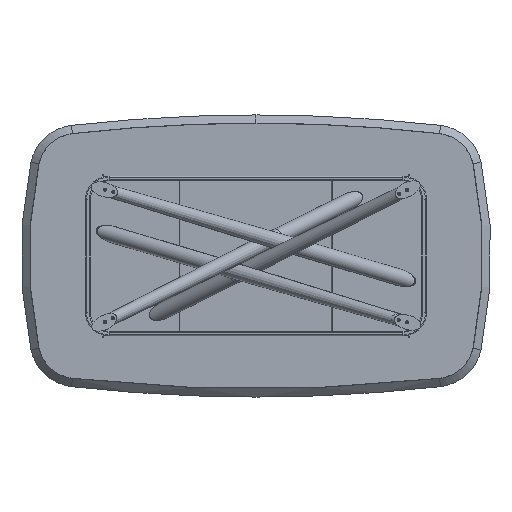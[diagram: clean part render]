
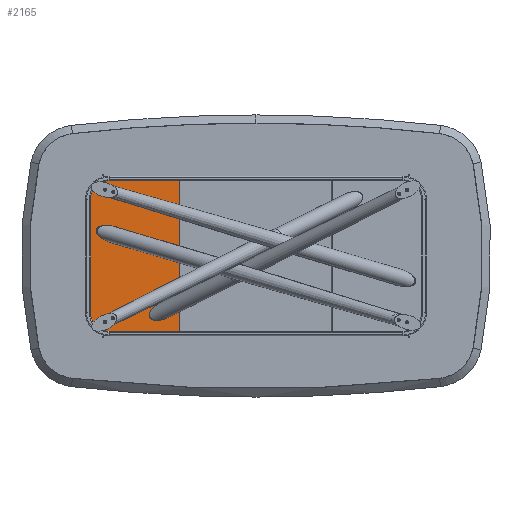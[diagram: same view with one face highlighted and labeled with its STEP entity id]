
A CAD part, front view. The second image highlights one B-rep face of the part: STEP entity #2165.
In plain terms, the highlighted planar face has unit normal (0, -1, 0).
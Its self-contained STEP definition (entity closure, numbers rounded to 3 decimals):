
#6 = EDGE_CURVE ( 'NONE', #10022, #2749, #5267, .T. ) ;
#39 = ORIENTED_EDGE ( 'NONE', *, *, #10344, .F. ) ;
#420 = VERTEX_POINT ( 'NONE', #12443 ) ;
#804 = CARTESIAN_POINT ( 'NONE',  ( -650., 0., 260.5 ) ) ;
#907 = ORIENTED_EDGE ( 'NONE', *, *, #3565, .F. ) ;
#971 = DIRECTION ( 'NONE',  ( 0., 1., 0. ) ) ;
#1131 = EDGE_CURVE ( 'NONE', #10022, #9741, #11044, .T. ) ;
#1149 = CARTESIAN_POINT ( 'NONE',  ( -625., 0., -320. ) ) ;
#1170 = EDGE_LOOP ( 'NONE', ( #11236, #39 ) ) ;
#1695 = CIRCLE ( 'NONE', #3652, 4.5 ) ;
#1860 = DIRECTION ( 'NONE',  ( 0., 0., -1. ) ) ;
#2009 = VERTEX_POINT ( 'NONE', #11804 ) ;
#2165 = ADVANCED_FACE ( 'NONE', ( #7075, #13291, #10254 ), #4821, .F. ) ;
#2504 = CARTESIAN_POINT ( 'NONE',  ( -625., 0., 320. ) ) ;
#2529 = DIRECTION ( 'NONE',  ( 0., 1., 0. ) ) ;
#2706 = CIRCLE ( 'NONE', #9424, 80. ) ;
#2749 = VERTEX_POINT ( 'NONE', #5345 ) ;
#2874 = CARTESIAN_POINT ( 'NONE',  ( -625., 0., 240. ) ) ;
#2967 = CARTESIAN_POINT ( 'NONE',  ( -327., 0., 320. ) ) ;
#3323 = ORIENTED_EDGE ( 'NONE', *, *, #5270, .F. ) ;
#3370 = ORIENTED_EDGE ( 'NONE', *, *, #8287, .F. ) ;
#3565 = EDGE_CURVE ( 'NONE', #420, #11722, #6534, .T. ) ;
#3652 = AXIS2_PLACEMENT_3D ( 'NONE', #12501, #4304, #10337 ) ;
#3720 = EDGE_LOOP ( 'NONE', ( #10601, #3370 ) ) ;
#3747 = CARTESIAN_POINT ( 'NONE',  ( -650., 0., 265. ) ) ;
#3803 = VERTEX_POINT ( 'NONE', #11790 ) ;
#3870 = CARTESIAN_POINT ( 'NONE',  ( -327., 0., -320. ) ) ;
#4077 = DIRECTION ( 'NONE',  ( 0., 0., 1. ) ) ;
#4242 = ORIENTED_EDGE ( 'NONE', *, *, #4243, .F. ) ;
#4243 = EDGE_CURVE ( 'NONE', #11722, #9741, #7639, .T. ) ;
#4304 = DIRECTION ( 'NONE',  ( 0., -1., 0. ) ) ;
#4417 = CARTESIAN_POINT ( 'NONE',  ( -625., 0., 320. ) ) ;
#4630 = VECTOR ( 'NONE', #4077, 1000. ) ;
#4694 = VECTOR ( 'NONE', #11373, 1000. ) ;
#4775 = CARTESIAN_POINT ( 'NONE',  ( -327., 0., -320. ) ) ;
#4821 = PLANE ( 'NONE',  #7556 ) ;
#5267 = LINE ( 'NONE', #1149, #4694 ) ;
#5270 = EDGE_CURVE ( 'NONE', #2009, #420, #6181, .T. ) ;
#5345 = CARTESIAN_POINT ( 'NONE',  ( -625., 0., -320. ) ) ;
#5515 = EDGE_LOOP ( 'NONE', ( #8866, #4242, #907, #3323, #7113, #9324 ) ) ;
#5683 = CARTESIAN_POINT ( 'NONE',  ( -650., 0., -265. ) ) ;
#5813 = CARTESIAN_POINT ( 'NONE',  ( -650., 0., 265. ) ) ;
#6181 = LINE ( 'NONE', #9913, #4630 ) ;
#6437 = EDGE_CURVE ( 'NONE', #7570, #3803, #11111, .T. ) ;
#6446 = VERTEX_POINT ( 'NONE', #6714 ) ;
#6534 = CIRCLE ( 'NONE', #11708, 80. ) ;
#6714 = CARTESIAN_POINT ( 'NONE',  ( -650., 0., 269.5 ) ) ;
#6797 = DIRECTION ( 'NONE',  ( 0., 0., 1. ) ) ;
#7006 = DIRECTION ( 'NONE',  ( 0., 1., 0. ) ) ;
#7075 = FACE_BOUND ( 'NONE', #3720, .T. ) ;
#7113 = ORIENTED_EDGE ( 'NONE', *, *, #7304, .F. ) ;
#7304 = EDGE_CURVE ( 'NONE', #2749, #2009, #2706, .T. ) ;
#7556 = AXIS2_PLACEMENT_3D ( 'NONE', #13158, #971, #11200 ) ;
#7570 = VERTEX_POINT ( 'NONE', #12546 ) ;
#7590 = DIRECTION ( 'NONE',  ( 0., 0., -1. ) ) ;
#7639 = LINE ( 'NONE', #2504, #8946 ) ;
#7646 = AXIS2_PLACEMENT_3D ( 'NONE', #5683, #12797, #7590 ) ;
#7915 = CIRCLE ( 'NONE', #12878, 4.5 ) ;
#8287 = EDGE_CURVE ( 'NONE', #6446, #11823, #7915, .T. ) ;
#8866 = ORIENTED_EDGE ( 'NONE', *, *, #1131, .T. ) ;
#8928 = DIRECTION ( 'NONE',  ( 0., 0., -1. ) ) ;
#8946 = VECTOR ( 'NONE', #10681, 1000. ) ;
#9324 = ORIENTED_EDGE ( 'NONE', *, *, #6, .F. ) ;
#9424 = AXIS2_PLACEMENT_3D ( 'NONE', #11803, #2529, #6797 ) ;
#9741 = VERTEX_POINT ( 'NONE', #2967 ) ;
#9852 = DIRECTION ( 'NONE',  ( 0., -1., 0. ) ) ;
#9913 = CARTESIAN_POINT ( 'NONE',  ( -705., 0., -240. ) ) ;
#10022 = VERTEX_POINT ( 'NONE', #4775 ) ;
#10117 = DIRECTION ( 'NONE',  ( 0., 0., 1. ) ) ;
#10254 = FACE_OUTER_BOUND ( 'NONE', #5515, .T. ) ;
#10337 = DIRECTION ( 'NONE',  ( 0., 0., -1. ) ) ;
#10344 = EDGE_CURVE ( 'NONE', #3803, #7570, #1695, .T. ) ;
#10601 = ORIENTED_EDGE ( 'NONE', *, *, #12724, .F. ) ;
#10676 = DIRECTION ( 'NONE',  ( 0., -1., 0. ) ) ;
#10681 = DIRECTION ( 'NONE',  ( 1., 0., 0. ) ) ;
#10772 = DIRECTION ( 'NONE',  ( 0., 0., 1. ) ) ;
#11044 = LINE ( 'NONE', #3870, #11644 ) ;
#11111 = CIRCLE ( 'NONE', #7646, 4.5 ) ;
#11196 = AXIS2_PLACEMENT_3D ( 'NONE', #3747, #9852, #1860 ) ;
#11200 = DIRECTION ( 'NONE',  ( 0., 0., 1. ) ) ;
#11236 = ORIENTED_EDGE ( 'NONE', *, *, #6437, .F. ) ;
#11373 = DIRECTION ( 'NONE',  ( -1., 0., 0. ) ) ;
#11644 = VECTOR ( 'NONE', #10772, 1000. ) ;
#11708 = AXIS2_PLACEMENT_3D ( 'NONE', #2874, #7006, #10117 ) ;
#11722 = VERTEX_POINT ( 'NONE', #4417 ) ;
#11790 = CARTESIAN_POINT ( 'NONE',  ( -650., 0., -260.5 ) ) ;
#11803 = CARTESIAN_POINT ( 'NONE',  ( -625., 0., -240. ) ) ;
#11804 = CARTESIAN_POINT ( 'NONE',  ( -705., 0., -240. ) ) ;
#11823 = VERTEX_POINT ( 'NONE', #804 ) ;
#12045 = CIRCLE ( 'NONE', #11196, 4.5 ) ;
#12443 = CARTESIAN_POINT ( 'NONE',  ( -705., 0., 240. ) ) ;
#12501 = CARTESIAN_POINT ( 'NONE',  ( -650., 0., -265. ) ) ;
#12546 = CARTESIAN_POINT ( 'NONE',  ( -650., 0., -269.5 ) ) ;
#12724 = EDGE_CURVE ( 'NONE', #11823, #6446, #12045, .T. ) ;
#12797 = DIRECTION ( 'NONE',  ( 0., -1., 0. ) ) ;
#12878 = AXIS2_PLACEMENT_3D ( 'NONE', #5813, #10676, #8928 ) ;
#13158 = CARTESIAN_POINT ( 'NONE',  ( -625., 0., 240. ) ) ;
#13291 = FACE_BOUND ( 'NONE', #1170, .T. ) ;
